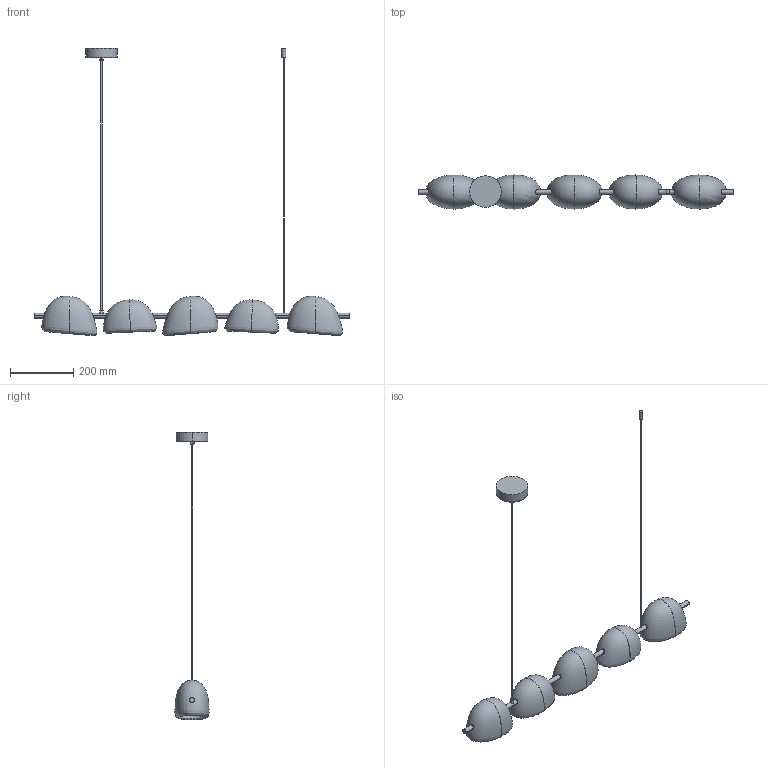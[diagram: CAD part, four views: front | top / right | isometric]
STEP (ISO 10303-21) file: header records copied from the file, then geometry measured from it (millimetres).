
FILE_DESCRIPTION (( 'STEP AP214' ), '1' );
FILE_NAME ('C1354.STEP', '2025-10-21T08:35:58', ( '' ), ( '' ), 'SwSTEP 2.0', 'SolidWorks 2018', '' );
FILE_SCHEMA (( 'AUTOMOTIVE_DESIGN' ));
Length unit declared in the file: millimetre
Products named in the file (1): C1354
Bounding box: 1000 x 107.91 x 911.04 mm (x, y, z)
Volume: 1141811.3 mm3; surface area: 558812.4 mm2
Topology: 13 solids, 13 shells, 115 faces, 274 edges, 162 vertices
Faces by surface type: bspline 50, cylinder 44, plane 21
Entity records: 46488 total; most frequent: CARTESIAN_POINT 44246, ORIENTED_EDGE 504, DIRECTION 263, EDGE_CURVE 252, B_SPLINE_CURVE_WITH_KNOTS 177, VERTEX_POINT 162, EDGE_LOOP 138, AXIS2_PLACEMENT_3D 130
